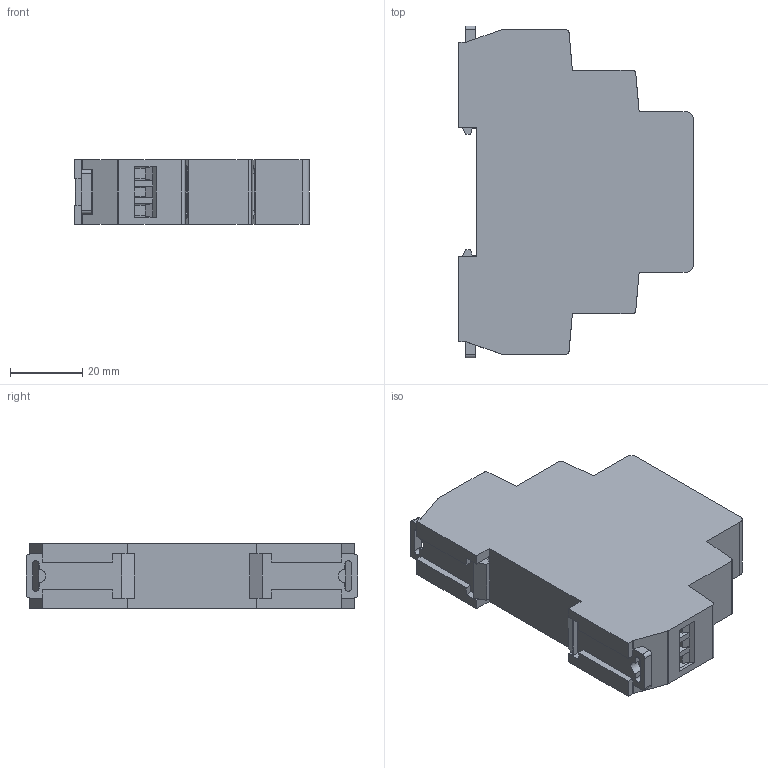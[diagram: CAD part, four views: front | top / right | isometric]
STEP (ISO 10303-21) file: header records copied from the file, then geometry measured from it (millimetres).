
FILE_DESCRIPTION (( 'STEP AP203' ), '1' );
FILE_NAME ('褥矬朦耥铄 疱脲 RP-E.STEP', '2021-11-25T20:43:53', ( '' ), ( '' ), 'SwSTEP 2.0', 'SolidWorks 2017', '' );
FILE_SCHEMA (( 'CONFIG_CONTROL_DESIGN' ));
Length unit declared in the file: millimetre
Products named in the file (1): 褥矬朦耥铄 疱脲 RP-E
Bounding box: 65 x 92 x 18 mm (x, y, z)
Volume: 79544 mm3; surface area: 18000.5 mm2
Topology: 6 solids, 6 shells, 348 faces, 914 edges, 602 vertices
Faces by surface type: plane 260, cylinder 88
Entity records: 10717 total; most frequent: CARTESIAN_POINT 1889, ORIENTED_EDGE 1828, DIRECTION 1772, EDGE_CURVE 914, VECTOR 738, LINE 738, VERTEX_POINT 602, AXIS2_PLACEMENT_3D 517
